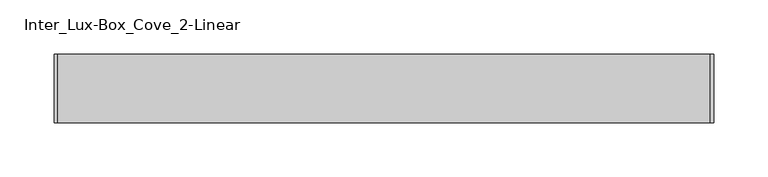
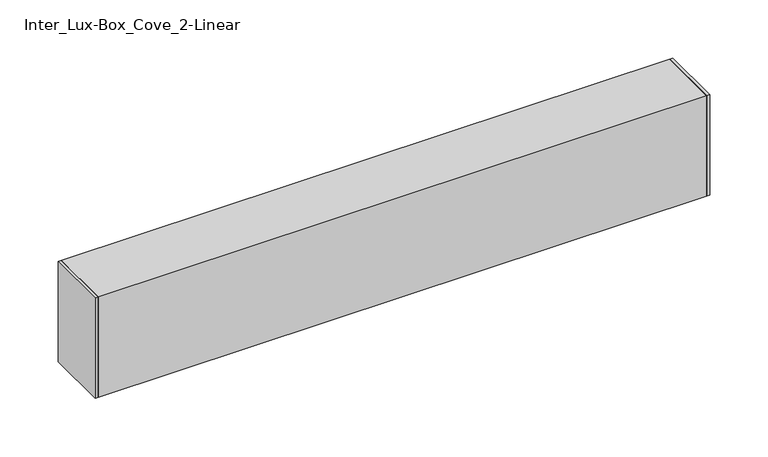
"""IFC4 building model written with IfcOpenShell, lengths in millimetres: light fixture geometry, Inter_Lux-Box_Cove_2-Linear : WG-BC2-24."""

from ifc_helpers import new_model, si_unit, point, frame, frame_2d, origin, origin_with_axes, place, context, project, spatial, polyline, circle_curve, trimmed, segment, composite_curve, outline, extrude, source, transform, mapped, element, save


def inter_lux_box_cove_2_linear_5ed94e75(model_context):
    return source(origin(), model_context, "Body", "SweptSolid", [
        extrude(outline(polyline([(304.8, 31.75), (304.8, -31.75), (301.625, -31.75), (301.625, 31.75), (304.8, 31.75)])), origin_with_axes(), (0.0, 0.0, 1.0), 105.3520075),
        extrude(outline(composite_curve([segment(polyline([(15.5686991, 56.5886971), (11.3529709, 53.3634634), (9.947285, 54.286846), (14.6041, 57.8495321)]), True, "CONTINUOUS"), segment(trimmed(circle_curve(frame_2d((20.7431814, 50.325035)), 9.711147), [point((14.6041, 57.8495321))], [point((29.8921935, 47.0689709))], False, "CARTESIAN"), True, "CONTINUOUS"), segment(polyline([(29.8921935, 47.0689709), (28.5291428, 42.080589), (27.1145076, 43.0098503), (28.3476687, 47.4648771)]), True, "CONTINUOUS"), segment(trimmed(circle_curve(frame_2d((20.7431814, 50.325035)), 8.1245757), [point((28.3476687, 47.4648771))], [point((15.5686991, 56.5886971))], True, "CARTESIAN"), True, "CONTINUOUS")], self_intersect=False)), frame((-301.625, 0.0, 0.0), z_axis=(1.0, 0.0, 0.0), x_axis=(0.0, 1.0, 0.0)), (0.0, 0.0, 1.0), 603.25),
        extrude(outline(polyline([(29.52626, 41.4255916), (31.75, 3.175), (30.1583865, 3.175), (27.929581, 40.8792454), (8.296285, 53.7761828), (8.296285, 65.8735378), (12.3594897, 84.989413), (27.0595865, 93.2467363), (27.0595865, 102.1770075), (28.5835865, 102.1770075), (28.5835865, 92.2202075), (13.8539227, 83.9458137), (9.947285, 65.5665283), (9.947285, 54.286846), (29.52626, 41.4255916)])), frame((-301.625, 0.0, 0.0), z_axis=(1.0, 0.0, 0.0), x_axis=(0.0, 1.0, 0.0)), (0.0, 0.0, 1.0), 603.25),
        extrude(outline(polyline([(-31.75, 105.3520075), (31.75, 105.3520075), (31.75, 102.1770075), (27.0595865, 102.1770075), (27.0595865, 93.4952545), (23.8845865, 93.4952545), (23.8845865, 102.1770075), (-28.575, 102.1770075), (-28.575, 3.175), (31.75, 3.175), (31.75, 0.0), (-31.75, 0.0), (-31.75, 105.3520075)])), frame((-301.625, 0.0, 0.0), z_axis=(1.0, 0.0, 0.0), x_axis=(0.0, 1.0, 0.0)), (0.0, 0.0, 1.0), 603.25),
        extrude(outline(polyline([(-304.8, -31.75), (-304.8, 31.75), (-301.625, 31.75), (-301.625, -31.75), (-304.8, -31.75)])), origin_with_axes(), (0.0, 0.0, 1.0), 105.3520075),
    ])


if __name__ == "__main__":
    model = new_model("IFC4")
    model_context = context("Model", 3, world=origin())
    ifc_project = project(units=[si_unit("LENGTHUNIT", "METRE", prefix="MILLI")], contexts=[model_context])
    site = spatial("IfcSite", under=ifc_project)
    building = spatial("IfcBuilding", under=site)
    placement = place(None, origin())
    inter_lux_box_cove_2_linear_shape = inter_lux_box_cove_2_linear_5ed94e75(model_context)
    element("IfcLightFixture", 1, ObjectType="Inter_Lux-Box_Cove_2-Linear : WG-BC2-24", at=placement, inside=building, context=model_context, shape_type="MappedRepresentation", body=[
        mapped(inter_lux_box_cove_2_linear_shape, transform((0.0, 0.0, 0.0), x_axis=(1.0, 0.0, 0.0), y_axis=(0.0, 1.0, 0.0), z_axis=(0.0, 0.0, 1.0))),
    ])
    save(model, "model.ifc")
